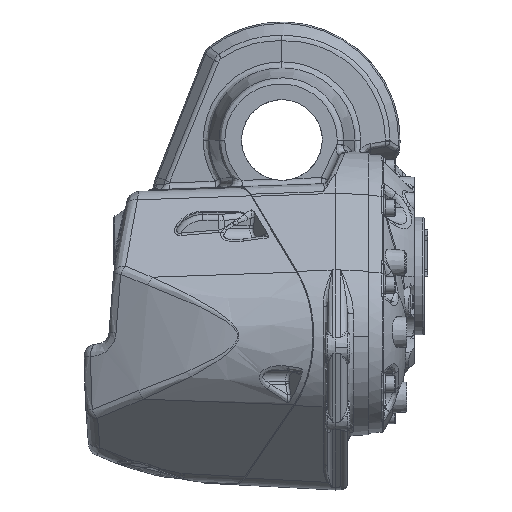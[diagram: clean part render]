
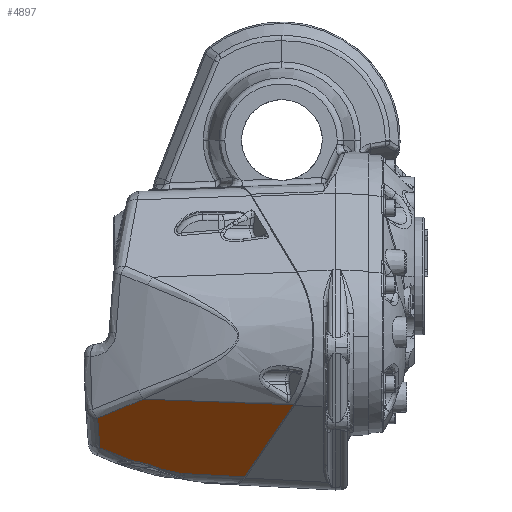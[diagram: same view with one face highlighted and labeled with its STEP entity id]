
A CAD part, left-side view. The second image highlights one B-rep face of the part: STEP entity #4897.
In plain terms, the highlighted planar face has unit normal (-0.706, 0.052, -0.706).
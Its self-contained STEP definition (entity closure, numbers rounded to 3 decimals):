
#4897 = ADVANCED_FACE ( 'NONE', ( #6550 ), #35307, .T. ) ;
#5865 = VERTEX_POINT ( 'NONE', #27636 ) ;
#6550 = FACE_OUTER_BOUND ( 'NONE', #24155, .T. ) ;
#6645 = CARTESIAN_POINT ( 'NONE',  ( 80.045, 117.734, 1036.747 ) ) ;
#6950 = CARTESIAN_POINT ( 'NONE',  ( 82.595, 105.094, 1033.26 ) ) ;
#7532 = VERTEX_POINT ( 'NONE', #75980 ) ;
#8903 = ORIENTED_EDGE ( 'NONE', *, *, #18438, .T. ) ;
#11851 = B_SPLINE_CURVE_WITH_KNOTS ( 'NONE', 3,
 ( #85715, #35130, #92861, #49699 ),
 .UNSPECIFIED., .F., .F.,
 ( 4, 4 ),
 ( 0., 1. ),
 .UNSPECIFIED. ) ;
#12754 = CARTESIAN_POINT ( 'NONE',  ( 29.507, 112.283, 1086.881 ) ) ;
#13971 = CARTESIAN_POINT ( 'NONE',  ( 80.197, 116.591, 1036.51 ) ) ;
#14294 = CARTESIAN_POINT ( 'NONE',  ( 82.679, 104.796, 1033.154 ) ) ;
#14743 = ORIENTED_EDGE ( 'NONE', *, *, #39580, .T. ) ;
#15364 = EDGE_CURVE ( 'NONE', #73862, #89470, #77579, .T. ) ;
#15551 = CARTESIAN_POINT ( 'NONE',  ( 47.653, 149.065, 1071.461 ) ) ;
#16338 = CARTESIAN_POINT ( 'NONE',  ( 87.239, 80.294, 1026.778 ) ) ;
#16655 = ORIENTED_EDGE ( 'NONE', *, *, #68086, .F. ) ;
#16721 = EDGE_CURVE ( 'NONE', #54966, #37102, #71328, .T. ) ;
#17558 = EDGE_CURVE ( 'NONE', #5865, #71196, #75786, .T. ) ;
#18438 = EDGE_CURVE ( 'NONE', #59848, #60864, #82281, .T. ) ;
#20145 = CARTESIAN_POINT ( 'NONE',  ( 84.783, 98.265, 1030.565 ) ) ;
#21170 = CARTESIAN_POINT ( 'NONE',  ( 87.122, 81.717, 1027. ) ) ;
#21272 = CARTESIAN_POINT ( 'NONE',  ( 80.245, 116.248, 1036.436 ) ) ;
#21583 = CARTESIAN_POINT ( 'NONE',  ( 83.24, 102.81, 1032.446 ) ) ;
#21776 = CARTESIAN_POINT ( 'NONE',  ( 47.653, 149.065, 1071.461 ) ) ;
#22839 = CARTESIAN_POINT ( 'NONE',  ( 63.469, 147.977, 1055.565 ) ) ;
#24155 = EDGE_LOOP ( 'NONE', ( #63124, #16655, #42674, #67595, #38213, #48483, #57521, #8903, #74603, #64412, #14743 ) ) ;
#26292 = EDGE_CURVE ( 'NONE', #67300, #59848, #79269, .T. ) ;
#27636 = CARTESIAN_POINT ( 'NONE',  ( 87.234, 79.144, 1026.697 ) ) ;
#28504 = CARTESIAN_POINT ( 'NONE',  ( 80.551, 114.245, 1035.982 ) ) ;
#28820 = CARTESIAN_POINT ( 'NONE',  ( 84.449, 99.208, 1030.969 ) ) ;
#30143 = CARTESIAN_POINT ( 'NONE',  ( 24.989, -9.642, 1082.363 ) ) ;
#30546 = CARTESIAN_POINT ( 'NONE',  ( 87.122, 81.717, 1027. ) ) ;
#33767 = B_SPLINE_CURVE_WITH_KNOTS ( 'NONE', 3,
 ( #12754, #56338, #63600, #21776 ),
 .UNSPECIFIED., .F., .F.,
 ( 4, 4 ),
 ( 0., 1. ),
 .UNSPECIFIED. ) ;
#35003 = DIRECTION ( 'NONE',  ( -0.707, 0., 0.707 ) ) ;
#35032 = CARTESIAN_POINT ( 'NONE',  ( 77.341, 130.256, 1040.379 ) ) ;
#35130 = CARTESIAN_POINT ( 'NONE',  ( 87.237, 79.288, 1026.705 ) ) ;
#35199 = CARTESIAN_POINT ( 'NONE',  ( 34.189, -43., 1070.689 ) ) ;
#35307 = PLANE ( 'NONE',  #58916 ) ;
#35743 = CARTESIAN_POINT ( 'NONE',  ( 81.082, 111.383, 1035.239 ) ) ;
#35807 = CARTESIAN_POINT ( 'NONE',  ( 86.512, 87.269, 1028.022 ) ) ;
#35962 = VECTOR ( 'NONE', #47607, 1000. ) ;
#36241 = DIRECTION ( 'NONE',  ( -0.706, 0.052, -0.706 ) ) ;
#37102 = VERTEX_POINT ( 'NONE', #91073 ) ;
#38213 = ORIENTED_EDGE ( 'NONE', *, *, #46285, .F. ) ;
#38280 = CARTESIAN_POINT ( 'NONE',  ( 24.385, -25.944, 1081.758 ) ) ;
#39580 = EDGE_CURVE ( 'NONE', #54966, #73862, #50683, .T. ) ;
#42018 = CARTESIAN_POINT ( 'NONE',  ( 74.564, 138.839, 1043.792 ) ) ;
#42326 = CARTESIAN_POINT ( 'NONE',  ( 79.68, 121.504, 1037.391 ) ) ;
#42674 = ORIENTED_EDGE ( 'NONE', *, *, #17558, .T. ) ;
#42733 = CARTESIAN_POINT ( 'NONE',  ( 79.68, 121.504, 1037.391 ) ) ;
#43030 = CARTESIAN_POINT ( 'NONE',  ( 81.826, 108.018, 1034.246 ) ) ;
#43496 = CARTESIAN_POINT ( 'NONE',  ( 87.239, 79.576, 1026.725 ) ) ;
#45496 = DIRECTION ( 'NONE',  ( -0.037, -0.999, -0.037 ) ) ;
#45574 = CARTESIAN_POINT ( 'NONE',  ( 86.169, 30.09, 1024.126 ) ) ;
#46285 = EDGE_CURVE ( 'NONE', #7532, #63954, #59873, .T. ) ;
#46852 = EDGE_CURVE ( 'NONE', #71196, #63954, #55212, .T. ) ;
#47607 = DIRECTION ( 'NONE',  ( -0.655, -0.426, 0.624 ) ) ;
#48483 = ORIENTED_EDGE ( 'NONE', *, *, #74753, .T. ) ;
#48889 = CARTESIAN_POINT ( 'NONE',  ( 72.653, 132.492, 1045.232 ) ) ;
#49699 = CARTESIAN_POINT ( 'NONE',  ( 87.239, 79.576, 1026.725 ) ) ;
#49811 = B_SPLINE_CURVE_WITH_KNOTS ( 'NONE', 3,
 ( #42733, #93151, #49977, #6645, #57249, #13971, #64516, #21272, #71817, #28504, #79084, #35743, #86307, #43030, #93464, #50288, #6950, #57563, #14294, #64824, #21583, #72148, #28820 ),
 .UNSPECIFIED., .F., .F.,
 ( 4, 1, 1, 1, 2, 2, 2, 2, 1, 1, 1, 1, 2, 2, 4 ),
 ( 0., 0.125, 0.188, 0.219, 0.234, 0.25, 0.375, 0.5, 0.625, 0.688, 0.719, 0.734, 0.742, 0.75, 1. ),
 .UNSPECIFIED. ) ;
#49977 = CARTESIAN_POINT ( 'NONE',  ( 79.859, 119.313, 1037.05 ) ) ;
#50288 = CARTESIAN_POINT ( 'NONE',  ( 82.48, 105.51, 1033.406 ) ) ;
#50683 = B_SPLINE_CURVE_WITH_KNOTS ( 'NONE', 3,
 ( #71885, #62701, #35807, #86370 ),
 .UNSPECIFIED., .F., .F.,
 ( 4, 4 ),
 ( 0., 1. ),
 .UNSPECIFIED. ) ;
#52065 = VECTOR ( 'NONE', #70694, 1000. ) ;
#53275 = CARTESIAN_POINT ( 'NONE',  ( 87.2, 81.008, 1026.87 ) ) ;
#54966 = VERTEX_POINT ( 'NONE', #20145 ) ;
#55212 = LINE ( 'NONE', #83947, #35962 ) ;
#56228 = CARTESIAN_POINT ( 'NONE',  ( 71.349, 147.253, 1047.63 ) ) ;
#56338 = CARTESIAN_POINT ( 'NONE',  ( 34.815, 124.909, 1082.509 ) ) ;
#56525 = VECTOR ( 'NONE', #77427, 1000. ) ;
#57249 = CARTESIAN_POINT ( 'NONE',  ( 80.149, 116.935, 1036.583 ) ) ;
#57521 = ORIENTED_EDGE ( 'NONE', *, *, #26292, .T. ) ;
#57563 = CARTESIAN_POINT ( 'NONE',  ( 82.645, 104.915, 1033.196 ) ) ;
#58814 = CARTESIAN_POINT ( 'NONE',  ( 55.57, 148.581, 1063.508 ) ) ;
#58916 = AXIS2_PLACEMENT_3D ( 'NONE', #35199, #36241, #35003 ) ;
#59848 = VERTEX_POINT ( 'NONE', #64954 ) ;
#59873 = LINE ( 'NONE', #38280, #76895 ) ;
#60864 = VERTEX_POINT ( 'NONE', #81776 ) ;
#62701 = CARTESIAN_POINT ( 'NONE',  ( 85.732, 92.785, 1029.21 ) ) ;
#63082 = CARTESIAN_POINT ( 'NONE',  ( 47.653, 149.065, 1071.461 ) ) ;
#63124 = ORIENTED_EDGE ( 'NONE', *, *, #15364, .T. ) ;
#63600 = CARTESIAN_POINT ( 'NONE',  ( 40.863, 137.17, 1077.369 ) ) ;
#63954 = VERTEX_POINT ( 'NONE', #30143 ) ;
#64412 = ORIENTED_EDGE ( 'NONE', *, *, #16721, .F. ) ;
#64516 = CARTESIAN_POINT ( 'NONE',  ( 80.229, 116.361, 1036.461 ) ) ;
#64824 = CARTESIAN_POINT ( 'NONE',  ( 82.696, 104.735, 1033.133 ) ) ;
#64954 = CARTESIAN_POINT ( 'NONE',  ( 71.349, 147.253, 1047.63 ) ) ;
#67300 = VERTEX_POINT ( 'NONE', #63082 ) ;
#67595 = ORIENTED_EDGE ( 'NONE', *, *, #46852, .T. ) ;
#68086 = EDGE_CURVE ( 'NONE', #5865, #89470, #11851, .T. ) ;
#70694 = DIRECTION ( 'NONE',  ( -0.31, 0.874, 0.375 ) ) ;
#71196 = VERTEX_POINT ( 'NONE', #45574 ) ;
#71328 = LINE ( 'NONE', #48889, #52065 ) ;
#71817 = CARTESIAN_POINT ( 'NONE',  ( 80.398, 115.191, 1036.206 ) ) ;
#71885 = CARTESIAN_POINT ( 'NONE',  ( 84.783, 98.265, 1030.565 ) ) ;
#72148 = CARTESIAN_POINT ( 'NONE',  ( 83.819, 100.987, 1031.732 ) ) ;
#73399 = CARTESIAN_POINT ( 'NONE',  ( 71.349, 147.253, 1047.63 ) ) ;
#73862 = VERTEX_POINT ( 'NONE', #21170 ) ;
#74603 = ORIENTED_EDGE ( 'NONE', *, *, #87981, .T. ) ;
#74753 = EDGE_CURVE ( 'NONE', #7532, #67300, #33767, .T. ) ;
#75115 = CARTESIAN_POINT ( 'NONE',  ( 87.239, 79.576, 1026.725 ) ) ;
#75786 = LINE ( 'NONE', #84685, #56525 ) ;
#75980 = CARTESIAN_POINT ( 'NONE',  ( 29.507, 112.283, 1086.881 ) ) ;
#76895 = VECTOR ( 'NONE', #45496, 1000. ) ;
#77427 = DIRECTION ( 'NONE',  ( -0.022, -0.998, -0.052 ) ) ;
#77579 = B_SPLINE_CURVE_WITH_KNOTS ( 'NONE', 3,
 ( #30546, #53275, #16338, #75115 ),
 .UNSPECIFIED., .F., .F.,
 ( 4, 4 ),
 ( 0., 1. ),
 .UNSPECIFIED. ) ;
#79084 = CARTESIAN_POINT ( 'NONE',  ( 80.893, 112.342, 1035.499 ) ) ;
#79269 = B_SPLINE_CURVE_WITH_KNOTS ( 'NONE', 3,
 ( #15551, #58814, #22839, #73399 ),
 .UNSPECIFIED., .F., .F.,
 ( 4, 4 ),
 ( 0., 1. ),
 .UNSPECIFIED. ) ;
#81776 = CARTESIAN_POINT ( 'NONE',  ( 79.68, 121.504, 1037.391 ) ) ;
#82281 = B_SPLINE_CURVE_WITH_KNOTS ( 'NONE', 3,
 ( #56228, #42018, #35032, #42326 ),
 .UNSPECIFIED., .F., .F.,
 ( 4, 4 ),
 ( 0., 1. ),
 .UNSPECIFIED. ) ;
#83947 = CARTESIAN_POINT ( 'NONE',  ( 86.169, 30.09, 1024.126 ) ) ;
#84685 = CARTESIAN_POINT ( 'NONE',  ( 87.234, 79.144, 1026.697 ) ) ;
#85715 = CARTESIAN_POINT ( 'NONE',  ( 87.234, 79.144, 1026.697 ) ) ;
#86307 = CARTESIAN_POINT ( 'NONE',  ( 81.493, 109.458, 1034.685 ) ) ;
#86370 = CARTESIAN_POINT ( 'NONE',  ( 87.122, 81.717, 1027. ) ) ;
#87981 = EDGE_CURVE ( 'NONE', #60864, #37102, #49811, .T. ) ;
#89470 = VERTEX_POINT ( 'NONE', #43496 ) ;
#91073 = CARTESIAN_POINT ( 'NONE',  ( 84.449, 99.208, 1030.969 ) ) ;
#92861 = CARTESIAN_POINT ( 'NONE',  ( 87.239, 79.432, 1026.714 ) ) ;
#93151 = CARTESIAN_POINT ( 'NONE',  ( 79.741, 120.636, 1037.266 ) ) ;
#93464 = CARTESIAN_POINT ( 'NONE',  ( 82.255, 106.345, 1033.692 ) ) ;
